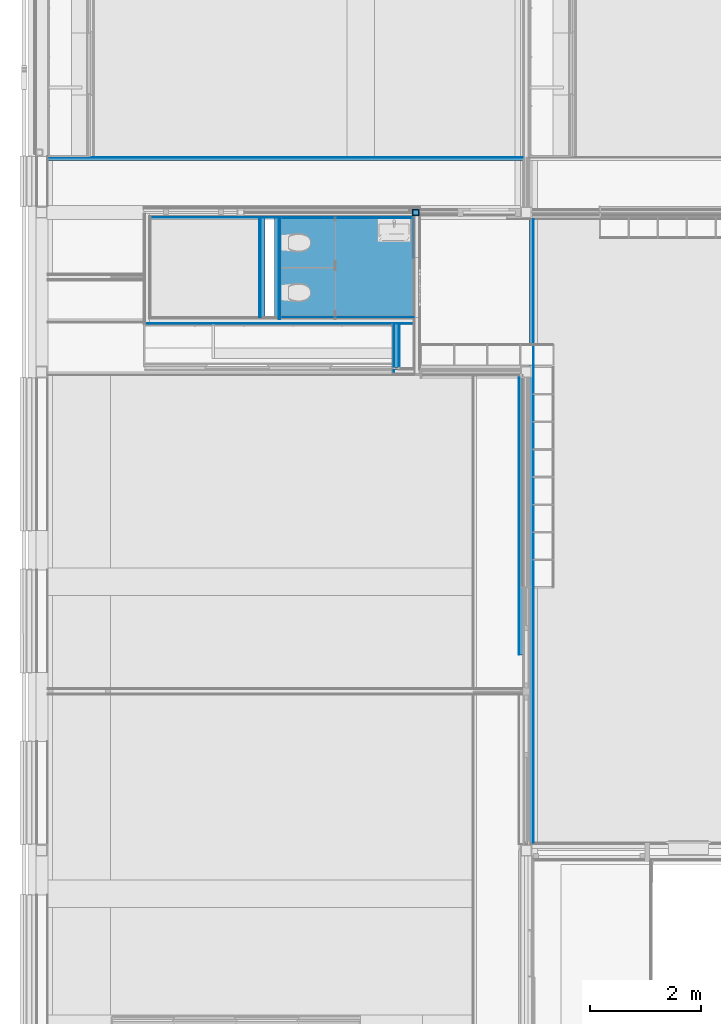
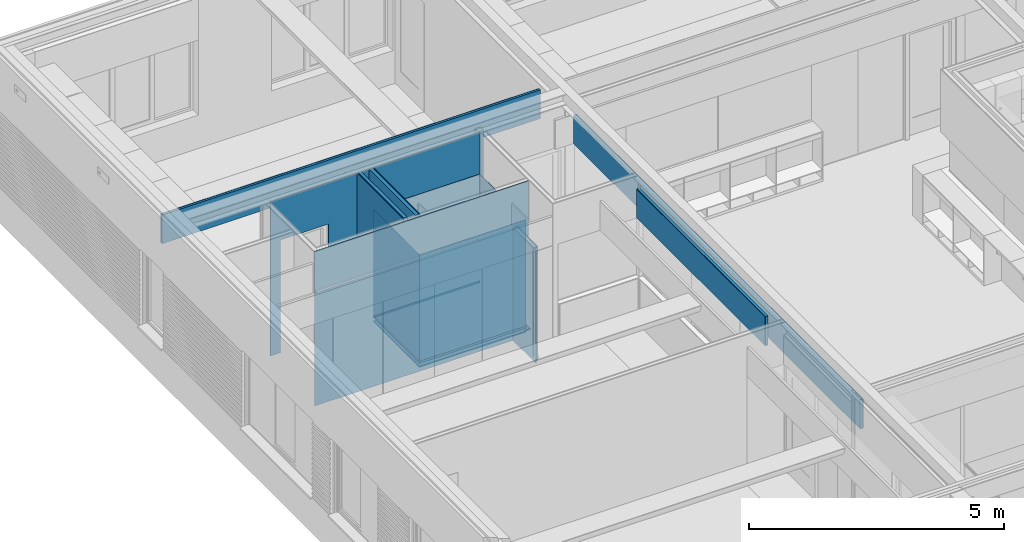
# One storey, part 78 of 137: 28 building element parts, 1 opening, 14 elements without a shape of their own.
"""IFC2X3 building model written with IfcOpenShell, lengths in millimetres."""

from ifc_helpers import new_model, entity, si_unit, converted_unit, derived_unit, money_unit, direction, frame, origin_with_axes, place, context, subcontext, project, spatial, faceted_brep, material, type_object, element, aggregate, save


model = new_model("IFC2X3")

# Units and contexts
model_context = context("Model", 3, precision=0.01, world=origin_with_axes(), true_north=direction((0.0, 1.0)))
body_context = subcontext(model_context, "Body", "Model", "MODEL_VIEW")
ifc_project = project(units=[si_unit("LENGTHUNIT", "METRE", prefix="MILLI"), si_unit("AREAUNIT", "SQUARE_METRE"), si_unit("VOLUMEUNIT", "CUBIC_METRE"), converted_unit("PLANEANGLEUNIT", "DEGREE", entity("IfcPlaneAngleMeasure", 0.0174532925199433), si_unit("PLANEANGLEUNIT", "RADIAN"), dimensions=[0, 0, 0, 0, 0, 0, 0]), money_unit("EUR"), converted_unit("TIMEUNIT", "Year", entity("IfcTimeMeasure", 31556926.0), si_unit("TIMEUNIT", "SECOND"), dimensions=[0, 0, 1, 0, 0, 0, 0]), si_unit("MASSUNIT", "GRAM", prefix="KILO"), si_unit("THERMODYNAMICTEMPERATUREUNIT", "DEGREE_CELSIUS"), si_unit("LUMINOUSINTENSITYUNIT", "LUMEN"), si_unit("ENERGYUNIT", "JOULE", prefix="MEGA"), derived_unit("THERMALCONDUCTANCEUNIT", [(si_unit("POWERUNIT", "WATT"), 1), (si_unit("LENGTHUNIT", "METRE"), -1), (si_unit("THERMODYNAMICTEMPERATUREUNIT", "KELVIN"), -1)]), derived_unit("SPECIFICHEATCAPACITYUNIT", [(si_unit("ENERGYUNIT", "JOULE"), 1), (si_unit("MASSUNIT", "GRAM", prefix="KILO"), -1), (si_unit("THERMODYNAMICTEMPERATUREUNIT", "KELVIN"), -1)]), derived_unit("MASSDENSITYUNIT", [(si_unit("MASSUNIT", "GRAM", prefix="KILO"), 1), (si_unit("VOLUMEUNIT", "CUBIC_METRE"), -1)])], contexts=[model_context])

# Site, building, storey
site_placement = place(None, origin_with_axes())
site = spatial("IfcSite", under=ifc_project, at=site_placement, Name="Site", CompositionType="ELEMENT")
building_placement = place(site_placement, origin_with_axes())
building = spatial("IfcBuilding", under=site, at=building_placement, Name="Naam gebouw", CompositionType="ELEMENT")
storey_placement = place(building_placement, frame((0.0, 0.0, 3960.0), z_axis=(0.0, 0.0, 1.0), x_axis=(1.0, 0.0, 0.0)))
storey = spatial("IfcBuildingStorey", under=building, at=storey_placement, Name="1e verdieping", CompositionType="ELEMENT", Elevation=3960.0)

# Proxy, building element parts
building_element_proxy_type_1 = type_object("IfcBuildingElementProxyType", Name="22 Metal stud 100 voorzetwand 100", PredefinedType="NOTDEFINED")
proxy_1_placement = place(storey_placement, frame((4030.00002148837, 22324.97621406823, -100.0000000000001), z_axis=(0.0, 0.0, 1.0), x_axis=(0.0, -1.0, 0.0)))
proxy_1 = element("IfcBuildingElementProxy", 1, at=proxy_1_placement, inside=storey, type_object=building_element_proxy_type_1, Name="_Wand-x")
ifc_material_1 = material(Name="ALG - LICHTE SCHEIDINGSWAND")
building_element_part_1_placement = place(proxy_1_placement, origin_with_axes())
building_element_part_1 = element("IfcBuildingElementPart", 2, at=building_element_part_1_placement, material=ifc_material_1, Name="ALG - LICHTE SCHEIDINGSWAND", context=body_context, shape_type="Brep", body=[
    faceted_brep([(1894.999999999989, 24.99999999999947, 0.0), (94.99999999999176, 25.00000000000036, 0.0), (94.99999999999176, 99.99999999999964, 0.0), (1894.999999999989, 99.99999999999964, 0.0), (1894.999999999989, 25.00000000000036, 3700.0), (94.99999999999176, 25.00000000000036, 3700.0), (94.99999999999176, 100.0000000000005, 3700.0), (1894.999999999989, 99.99999999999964, 3700.0)], [[[0, 1, 2, 3]], [[4, 5, 1, 0]], [[2, 1, 5, 6]], [[3, 2, 6, 7]], [[3, 7, 4, 0]], [[7, 6, 5, 4]]]),
])
ifc_material_2 = material(Name="Gipsplaat")
building_element_part_2_placement = place(proxy_1_placement, origin_with_axes())
building_element_part_2 = element("IfcBuildingElementPart", 3, at=building_element_part_2_placement, material=ifc_material_2, Name="Gipsplaat", context=body_context, shape_type="Brep", body=[
    faceted_brep([(1894.999999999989, 12.49999999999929, 0.0), (94.99999999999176, 12.50000000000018, 0.0), (94.99999999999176, 25.00000000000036, 0.0), (1894.999999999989, 24.99999999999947, 0.0), (1894.999999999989, 12.50000000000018, 3700.0), (94.99999999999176, 12.50000000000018, 3700.0), (94.99999999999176, 25.00000000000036, 3700.0), (1894.999999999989, 25.00000000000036, 3700.0)], [[[0, 1, 2, 3]], [[4, 5, 1, 0]], [[2, 1, 5, 6]], [[3, 2, 6, 7]], [[3, 7, 4, 0]], [[7, 6, 5, 4]]]),
])
building_element_part_3_placement = place(proxy_1_placement, origin_with_axes())
building_element_part_3 = element("IfcBuildingElementPart", 4, at=building_element_part_3_placement, material=ifc_material_2, Name="Gipsplaat", context=body_context, shape_type="Brep", body=[
    faceted_brep([(1894.999999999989, 0.0, 0.0), (94.99999999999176, 0.0, 0.0), (94.99999999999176, 12.50000000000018, 0.0), (1894.999999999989, 12.49999999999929, 0.0), (1894.999999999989, 0.0, 3700.0), (94.99999999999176, 0.0, 3700.0), (94.99999999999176, 12.50000000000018, 3700.0), (1894.999999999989, 12.50000000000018, 3700.0)], [[[0, 1, 2, 3]], [[4, 5, 1, 0]], [[2, 1, 5, 6]], [[3, 2, 6, 7]], [[3, 7, 4, 0]], [[7, 6, 5, 4]]]),
])
aggregate(proxy_1, [building_element_part_1, building_element_part_2, building_element_part_3])

# Proxy, building element part
building_element_proxy_type_2 = type_object("IfcBuildingElementProxyType", Name="22 Metal stud 125 gips 125", PredefinedType="NOTDEFINED")
proxy_2_placement = place(storey_placement, frame((1944.000000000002, 20367.47621406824, -100.0000000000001), z_axis=(0.0, 0.0, 1.0), x_axis=(1.0, 0.0, 0.0)))
proxy_2 = element("IfcBuildingElementProxy", 5, at=proxy_2_placement, inside=storey, type_object=building_element_proxy_type_2, Name="_Wand-x")
building_element_part_4_placement = place(proxy_2_placement, origin_with_axes())
building_element_part_4 = element("IfcBuildingElementPart", 6, at=building_element_part_4_placement, material=ifc_material_2, Name="Gipsplaat", context=body_context, shape_type="Brep", body=[
    faceted_brep([(4870.999999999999, -50.00000000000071, 0.0), (24.99999999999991, -50.00000000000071, 0.0), (24.99999999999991, -37.50000000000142, 0.0), (4870.999999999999, -37.50000000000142, 0.0), (4870.999999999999, -50.00000000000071, 3700.0), (24.99999999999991, -50.00000000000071, 3700.0), (24.99999999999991, -37.50000000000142, 3700.0), (4870.999999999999, -37.49999999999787, 3700.0)], [[[0, 1, 2, 3]], [[4, 5, 1, 0]], [[2, 1, 5, 6]], [[3, 2, 6, 7]], [[3, 7, 4, 0]], [[7, 6, 5, 4]]]),
])
aggregate(proxy_2, [building_element_part_4])

# Proxy, building element parts
proxy_3_placement = place(storey_placement, frame((4405.000000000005, 22324.97621406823, -100.0000000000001), z_axis=(0.0, 0.0, 1.0), x_axis=(0.0, -1.0, 0.0)))
proxy_3 = element("IfcBuildingElementProxy", 7, at=proxy_3_placement, inside=storey, type_object=building_element_proxy_type_1, Name="_Wand-x")
building_element_part_5_placement = place(proxy_3_placement, origin_with_axes())
building_element_part_5 = element("IfcBuildingElementPart", 8, at=building_element_part_5_placement, material=ifc_material_2, Name="Gipsplaat", context=body_context, shape_type="Brep", body=[
    faceted_brep([(1925.000000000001, -12.50000000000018, 3700.0), (1925.000000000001, 0.0, 3700.0), (94.99999999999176, 0.0, 3700.0), (94.99999999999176, -12.50000000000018, 3700.0), (1925.000000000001, -12.50000000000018, 0.0), (1925.000000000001, 0.0, 0.0), (94.99999999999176, 0.0, 0.0), (94.99999999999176, -12.50000000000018, 0.0)], [[[0, 1, 2, 3]], [[0, 4, 5, 1]], [[1, 5, 6, 2]], [[3, 2, 6, 7]], [[4, 0, 3, 7]], [[5, 4, 7, 6]]]),
])
building_element_part_6_placement = place(proxy_3_placement, origin_with_axes())
building_element_part_6 = element("IfcBuildingElementPart", 9, at=building_element_part_6_placement, material=ifc_material_2, Name="Gipsplaat", context=body_context, shape_type="Brep", body=[
    faceted_brep([(1925.000000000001, -25.00000000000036, 3700.0), (1925.000000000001, -12.50000000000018, 3700.0), (94.99999999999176, -12.50000000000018, 3700.0), (94.99999999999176, -24.99999999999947, 3700.0), (1925.000000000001, -25.00000000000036, 0.0), (1925.000000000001, -12.50000000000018, 0.0), (94.99999999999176, -12.50000000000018, 0.0), (94.99999999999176, -25.00000000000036, 0.0)], [[[0, 1, 2, 3]], [[0, 4, 5, 1]], [[1, 5, 6, 2]], [[3, 2, 6, 7]], [[4, 0, 3, 7]], [[5, 4, 7, 6]]]),
])
building_element_part_7_placement = place(proxy_3_placement, origin_with_axes())
building_element_part_7 = element("IfcBuildingElementPart", 10, at=building_element_part_7_placement, material=ifc_material_1, Name="ALG - LICHTE SCHEIDINGSWAND", context=body_context, shape_type="Brep", body=[
    faceted_brep([(1925.000000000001, -99.99999999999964, 3700.0), (1925.000000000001, -25.00000000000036, 3700.0), (94.99999999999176, -24.99999999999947, 3700.0), (94.99999999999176, -99.99999999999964, 3700.0), (1925.000000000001, -100.0000000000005, 0.0), (1925.000000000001, -25.00000000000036, 0.0), (94.99999999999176, -25.00000000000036, 0.0), (94.99999999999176, -99.99999999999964, 0.0)], [[[0, 1, 2, 3]], [[0, 4, 5, 1]], [[1, 5, 6, 2]], [[3, 2, 6, 7]], [[4, 0, 3, 7]], [[5, 4, 7, 6]]]),
])
aggregate(proxy_3, [building_element_part_5, building_element_part_6, building_element_part_7])

building_element_proxy_type_3 = type_object("IfcBuildingElementProxyType", Name="22 Metal stud 72.5 plafond 73", PredefinedType="NOTDEFINED")
proxy_4_placement = place(storey_placement, frame((8985.000000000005, 22199.97621406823, 2600.0), z_axis=(0.0, 0.0, 1.0), x_axis=(2.124828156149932e-07, -0.9999999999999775, 0.0)))
proxy_4 = element("IfcBuildingElementProxy", 11, at=proxy_4_placement, inside=storey, type_object=building_element_proxy_type_3, Name="_Wand-x")
building_element_part_8_placement = place(proxy_4_placement, origin_with_axes())
building_element_part_8 = element("IfcBuildingElementPart", 12, at=building_element_part_8_placement, material=ifc_material_2, Name="Gipsplaat", context=body_context, shape_type="Brep", body=[
    faceted_brep([(2687.476402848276, -0.000571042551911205, 0.0), (2687.476402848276, -0.000571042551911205, 11.99999999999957), (0.0, 0.0, 11.99999999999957), (0.0, 0.0, 700.0000000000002), (11254.97610351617, 0.0, 700.0000000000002), (11254.97610351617, 0.0, 0.0), (2687.476400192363, -12.49999999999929, 0.0), (2687.476400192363, -12.49999999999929, 11.99999999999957), (-2.656033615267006e-06, -12.49999999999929, 11.99999999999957), (-2.656033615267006e-06, -12.49999999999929, 700.0000000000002), (11254.97610351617, -12.50000000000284, 700.0000000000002), (11254.97610351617, -12.50000000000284, 0.0)], [[[0, 1, 2, 3, 4, 5]], [[1, 0, 6, 7]], [[8, 2, 1, 7]], [[2, 8, 9, 3]], [[9, 10, 4, 3]], [[4, 10, 11, 5]], [[6, 0, 5, 11]], [[7, 6, 11, 10, 9, 8]]]),
])
building_element_part_9_placement = place(proxy_4_placement, origin_with_axes())
building_element_part_9 = element("IfcBuildingElementPart", 13, at=building_element_part_9_placement, material=ifc_material_1, Name="ALG - LICHTE SCHEIDINGSWAND", context=body_context, shape_type="Brep", body=[
    faceted_brep([(2687.476400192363, -12.49999999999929, 0.0), (2687.476400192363, -12.49999999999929, 11.99999999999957), (-2.656033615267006e-06, -12.49999999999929, 11.99999999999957), (-2.656033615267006e-06, -12.49999999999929, 700.0000000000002), (11254.97610351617, -12.50000000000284, 700.0000000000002), (11254.97610351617, -12.50000000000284, 0.0), (2687.476387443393, -72.49999999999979, 0.0), (2687.476387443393, -72.49999999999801, 11.99999999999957), (-1.540500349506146e-05, -72.49999999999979, 11.99999999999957), (-1.540500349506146e-05, -72.49999999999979, 700.0000000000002), (11254.97610351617, -72.50000000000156, 700.0000000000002), (11254.97610351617, -72.50000000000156, 0.0)], [[[0, 1, 2, 3, 4, 5]], [[1, 0, 6, 7]], [[8, 2, 1, 7]], [[2, 8, 9, 3]], [[9, 10, 4, 3]], [[4, 10, 11, 5]], [[6, 0, 5, 11]], [[7, 6, 11, 10, 9, 8]]]),
])
aggregate(proxy_4, [building_element_part_8, building_element_part_9])

# Proxy, opening, building element part
building_element_proxy_type_4 = type_object("IfcBuildingElementProxyType", Name="22 Metal stud 190 190", PredefinedType="NOTDEFINED")
proxy_5_placement = place(storey_placement, frame((1944.000000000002, 22324.97621406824, -100.0000000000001), z_axis=(0.0, 0.0, 1.0), x_axis=(1.0, 0.0, 0.0)))
proxy_5 = element("IfcBuildingElementProxy", 14, at=proxy_5_placement, inside=storey, type_object=building_element_proxy_type_4, Name="_Wand-x")
opening_placement = place(proxy_5_placement, frame((896.0000214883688, 0.0, 100.0000000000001), z_axis=(0.0, 0.0, 1.0), x_axis=(1.0, 0.0, 0.0)))
element("IfcOpeningElement", 15, at=opening_placement, cuts=proxy_5, Name="_02.07", context=body_context, shape_type="Brep", body=[
    faceted_brep([(-540.0, -96.00000000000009, 2600.0), (-540.0, -96.00000000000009, -100.0000000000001), (540.0, -96.00000000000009, -100.0000000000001), (540.0, -96.00000000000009, 2600.0), (-540.0, 96.00000000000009, 2600.0), (-540.0, 96.00000000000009, -100.0000000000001), (540.0, 96.00000000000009, -100.0000000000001), (540.0, 96.00000000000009, 2600.0)], [[[0, 1, 2, 3]], [[4, 5, 1, 0]], [[5, 6, 2, 1]], [[6, 7, 3, 2]], [[7, 4, 0, 3]], [[6, 5, 4, 7]]]),
])
building_element_part_10_placement = place(proxy_5_placement, origin_with_axes())
building_element_part_10 = element("IfcBuildingElementPart", 16, at=building_element_part_10_placement, material=ifc_material_2, Name="Gipsplaat", context=body_context, shape_type="Brep", body=[
    faceted_brep([(356.0000214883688, -82.49999999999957, 2700.0), (356.0000214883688, -82.49999999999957, 0.0), (125.0, -82.49999999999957, 0.0), (125.0, -82.49999999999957, 3700.0), (4870.999999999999, -82.49999999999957, 3700.0), (4870.999999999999, -82.49999999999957, 0.0), (1436.000021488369, -82.49999999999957, 0.0), (1436.000021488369, -82.49999999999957, 2700.0), (356.0000214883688, -94.99999999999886, 2700.0), (356.0000214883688, -94.99999999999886, 0.0), (125.0, -94.99999999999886, 0.0), (125.0, -94.99999999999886, 3700.0), (4870.999999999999, -94.99999999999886, 3700.0), (4870.999999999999, -94.99999999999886, 0.0), (1436.000021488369, -94.99999999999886, 0.0), (1436.000021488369, -94.99999999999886, 2700.0)], [[[0, 1, 2, 3, 4, 5, 6, 7]], [[1, 0, 8, 9]], [[1, 9, 10, 2]], [[10, 11, 3, 2]], [[3, 11, 12, 4]], [[4, 12, 13, 5]], [[14, 6, 5, 13]], [[7, 6, 14, 15]], [[0, 7, 15, 8]], [[15, 14, 13, 12, 11, 10, 9, 8]]]),
])
aggregate(proxy_5, [building_element_part_10])

# Proxy, building element parts
proxy_6_placement = place(storey_placement, frame((8715.000000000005, 14339.9998112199, 2600.0), z_axis=(0.0, 0.0, 1.0), x_axis=(0.0, 1.0, 0.0)))
proxy_6 = element("IfcBuildingElementProxy", 17, at=proxy_6_placement, inside=storey, type_object=building_element_proxy_type_3, Name="_Wand-x")
building_element_part_11_placement = place(proxy_6_placement, origin_with_axes())
building_element_part_11 = element("IfcBuildingElementPart", 18, at=building_element_part_11_placement, material=ifc_material_2, Name="Gipsplaat", context=body_context, shape_type="Brep", body=[
    faceted_brep([(0.0, -12.49999999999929, 11.99999999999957), (5047.500000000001, -12.49999999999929, 11.99999999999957), (5047.500000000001, -12.49999999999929, 700.0000000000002), (0.0, -12.49999999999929, 700.0000000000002), (5047.500000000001, 0.0, 11.99999999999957), (0.0, 0.0, 11.99999999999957), (5047.500000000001, 0.0, 700.0000000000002), (0.0, 0.0, 700.0000000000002)], [[[0, 1, 2, 3]], [[4, 1, 0, 5]], [[1, 4, 6, 2]], [[3, 2, 6, 7]], [[5, 0, 3, 7]], [[4, 5, 7, 6]]]),
])
building_element_part_12_placement = place(proxy_6_placement, origin_with_axes())
building_element_part_12 = element("IfcBuildingElementPart", 19, at=building_element_part_12_placement, material=ifc_material_1, Name="ALG - LICHTE SCHEIDINGSWAND", context=body_context, shape_type="Brep", body=[
    faceted_brep([(5047.500000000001, -72.49999999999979, 700.0000000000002), (5047.500000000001, -12.49999999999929, 700.0000000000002), (0.0, -12.49999999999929, 700.0000000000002), (0.0, -72.49999999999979, 700.0000000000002), (5047.500000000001, -72.49999999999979, 0.0), (5047.500000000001, -12.49999999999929, 0.0), (0.0, -12.49999999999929, 0.0), (0.0, -72.49999999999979, 0.0)], [[[0, 1, 2, 3]], [[0, 4, 5, 1]], [[1, 5, 6, 2]], [[3, 2, 6, 7]], [[4, 0, 3, 7]], [[5, 4, 7, 6]]]),
])
aggregate(proxy_6, [building_element_part_11, building_element_part_12])

building_element_proxy_type_5 = type_object("IfcBuildingElementProxyType", Name="22 Metal stud 62.5 plafond 63", PredefinedType="NOTDEFINED")
proxy_7_placement = place(storey_placement, frame((214.0000000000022, 23324.99984707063, 2600.0), z_axis=(0.0, 0.0, 1.0), x_axis=(1.0, 0.0, 0.0)))
proxy_7 = element("IfcBuildingElementProxy", 20, at=proxy_7_placement, inside=storey, type_object=building_element_proxy_type_5, Name="_Wand-x")
building_element_part_13_placement = place(proxy_7_placement, origin_with_axes())
building_element_part_13 = element("IfcBuildingElementPart", 21, at=building_element_part_13_placement, material=ifc_material_2, Name="Gipsplaat", context=body_context, shape_type="Brep", body=[
    faceted_brep([(8573.500000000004, -12.49999999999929, 11.99999999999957), (8573.500000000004, 0.0, 11.99999999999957), (8573.500000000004, 0.0, 700.0000000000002), (8573.500000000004, -12.49999999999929, 700.0000000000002), (0.0, 0.0, 11.99999999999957), (0.0, -12.49999999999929, 11.99999999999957), (0.0, 0.0, 700.0000000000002), (0.0, -12.49999999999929, 700.0000000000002)], [[[0, 1, 2, 3]], [[4, 1, 0, 5]], [[1, 4, 6, 2]], [[7, 3, 2, 6]], [[5, 0, 3, 7]], [[4, 5, 7, 6]]]),
])
building_element_part_14_placement = place(proxy_7_placement, origin_with_axes())
building_element_part_14 = element("IfcBuildingElementPart", 22, at=building_element_part_14_placement, material=ifc_material_1, Name="ALG - LICHTE SCHEIDINGSWAND", context=body_context, shape_type="Brep", body=[
    faceted_brep([(8573.500000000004, -62.5, 11.99999999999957), (8573.500000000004, -12.49999999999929, 11.99999999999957), (8573.500000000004, -12.49999999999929, 700.0000000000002), (8573.500000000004, -62.5, 700.0000000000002), (0.0, -12.49999999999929, 11.99999999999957), (0.0, -62.5, 11.99999999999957), (0.0, -12.49999999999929, 700.0000000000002), (0.0, -62.5, 700.0000000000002)], [[[0, 1, 2, 3]], [[4, 1, 0, 5]], [[1, 4, 6, 2]], [[7, 3, 2, 6]], [[5, 0, 3, 7]], [[4, 5, 7, 6]]]),
])
aggregate(proxy_7, [building_element_part_13, building_element_part_14])

# Column, building element parts
column_type = type_object("IfcColumnType", Name="120X120X8 120 x 120", PredefinedType="COLUMN")
column_placement = place(storey_placement, frame((6855.0, 22324.97621406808, -100.0000000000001), z_axis=(0.0, 0.0, 1.0), x_axis=(1.0, 0.0, 0.0)))
column = element("IfcColumn", 23, at=column_placement, inside=storey, type_object=column_type, Name="28_Kolom-x", ObjectType="COLUMN")
ifc_material_3 = material(Name="Lucht kolommen")
building_element_part_15_placement = place(column_placement, origin_with_axes())
building_element_part_15 = element("IfcBuildingElementPart", 24, at=building_element_part_15_placement, material=ifc_material_3, Name="Lucht kolommen", context=body_context, shape_type="Brep", body=[
    faceted_brep([(51.9999999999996, -51.9999999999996, 0.0), (51.9999999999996, 51.9999999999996, 0.0), (51.9999999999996, 51.9999999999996, 3699.999999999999), (51.9999999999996, -51.9999999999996, 3699.999999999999), (-51.9999999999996, -51.9999999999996, 0.0), (-51.9999999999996, 51.9999999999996, 0.0), (-51.9999999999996, 51.9999999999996, 3699.999999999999), (-51.9999999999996, -51.9999999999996, 3699.999999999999)], [[[0, 1, 2, 3]], [[0, 4, 5, 1]], [[1, 5, 6, 2]], [[3, 2, 6, 7]], [[4, 0, 3, 7]], [[5, 4, 7, 6]]]),
])
ifc_material_4 = material(Name="Metaal - Staal C")
building_element_part_16_placement = place(column_placement, origin_with_axes())
building_element_part_16 = element("IfcBuildingElementPart", 25, at=building_element_part_16_placement, material=ifc_material_4, Name="Metaal - Staal C", context=body_context, shape_type="Brep", body=[
    faceted_brep([(-59.99999999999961, 59.99999999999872, 0.0), (-59.99999999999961, -59.99999999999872, 0.0), (-59.99999999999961, -59.99999999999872, 3699.999999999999), (-59.99999999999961, 59.99999999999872, 3699.999999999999), (59.99999999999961, 59.99999999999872, 0.0), (59.99999999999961, -59.99999999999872, 0.0), (-51.9999999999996, -51.9999999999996, 0.0), (51.9999999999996, -51.9999999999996, 0.0), (51.9999999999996, 51.9999999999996, 0.0), (-51.9999999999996, 51.9999999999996, 0.0), (59.99999999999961, -59.99999999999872, 3699.999999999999), (59.99999999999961, 59.99999999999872, 3699.999999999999), (-51.9999999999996, -51.9999999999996, 3699.999999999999), (-51.9999999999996, 51.9999999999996, 3699.999999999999), (51.9999999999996, 51.9999999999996, 3699.999999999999), (51.9999999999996, -51.9999999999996, 3699.999999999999)], [[[0, 1, 2, 3]], [[0, 4, 5, 1], [6, 7, 8, 9]], [[1, 5, 10, 2]], [[3, 2, 10, 11], [12, 13, 14, 15]], [[4, 0, 3, 11]], [[5, 4, 11, 10]], [[7, 6, 12, 15]], [[8, 7, 15, 14]], [[9, 8, 14, 13]], [[6, 9, 13, 12]]]),
])
aggregate(column, [building_element_part_15, building_element_part_16])

# Slab, building element part
slab_type = type_object("IfcSlabType", Name="43 Zwevende dekvloer 100", PredefinedType="NOTDEFINED")
slab_placement = place(storey_placement, frame((4404.99999999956, 20429.97621406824, 0.0), z_axis=(0.0, 0.0, 1.0), x_axis=(1.0, 0.0, 0.0)))
slab = element("IfcSlab", 26, at=slab_placement, inside=storey, type_object=slab_type, Name="_Vloer-x", PredefinedType="NOTDEFINED")
ifc_material_5 = material(Name="Isolatie - XPS zwevende dekvloer")
building_element_part_17_placement = place(slab_placement, origin_with_axes())
building_element_part_17 = element("IfcBuildingElementPart", 27, at=building_element_part_17_placement, material=ifc_material_5, Name="Isolatie - XPS zwevende dekvloer", context=body_context, shape_type="Brep", body=[
    faceted_brep([(0.0, 0.0, -100.0000000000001), (2410.000000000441, 0.0, -100.0000000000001), (2410.000000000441, 0.0, -69.99999999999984), (0.0, 0.0, -69.99999999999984), (0.0, 1799.999999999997, -100.0000000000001), (2410.000000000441, 1799.999999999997, -100.0000000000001), (2410.000000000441, 1112.499999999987, -100.0000000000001), (2535.000000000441, 1112.499999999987, -100.0000000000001), (2535.000000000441, 32.4999999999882, -100.0000000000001), (2410.000000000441, 32.4999999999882, -100.0000000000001), (2410.000000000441, 32.4999999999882, -69.99999999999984), (2535.000000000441, 32.4999999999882, -69.99999999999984), (2535.000000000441, 1112.499999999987, -69.99999999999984), (2410.000000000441, 1112.499999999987, -69.99999999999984), (2410.000000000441, 1799.999999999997, -69.99999999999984), (0.0, 1799.999999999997, -69.99999999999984)], [[[0, 1, 2, 3]], [[0, 4, 5, 6, 7, 8, 9, 1]], [[1, 9, 10, 2]], [[3, 2, 10, 11, 12, 13, 14, 15]], [[4, 0, 3, 15]], [[5, 4, 15, 14]], [[6, 5, 14, 13]], [[7, 6, 13, 12]], [[8, 7, 12, 11]], [[9, 8, 11, 10]]]),
])
aggregate(slab, [building_element_part_17])

# Proxy, building element part
building_element_proxy_type_6 = type_object("IfcBuildingElementProxyType", Name="42 Tegelwerk 2600+ 12 x 2600", PredefinedType="NOTDEFINED")
proxy_8_placement = place(storey_placement, frame((6795.000000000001, 21509.97621853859, 0.0), z_axis=(0.0, 0.0, 1.0), x_axis=(0.0, 1.0, 0.0)))
proxy_8 = element("IfcBuildingElementProxy", 28, at=proxy_8_placement, inside=storey, type_object=building_element_proxy_type_6, Name="_Wand-x")
ifc_material_6 = material(Name="21 STO lijmlaag")
building_element_part_18_placement = place(proxy_8_placement, origin_with_axes())
building_element_part_18 = element("IfcBuildingElementPart", 29, at=building_element_part_18_placement, material=ifc_material_6, Name="21 STO lijmlaag", context=body_context, shape_type="Brep", body=[
    faceted_brep([(720.0000029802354, -19.99999552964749, 50.00000596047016), (720.0000029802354, -19.99999552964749, 2600.0), (0.0, -19.99999552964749, 2600.0), (0.0, -19.99999552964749, 49.99999999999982), (720.0000029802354, -13.00000447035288, 2600.0), (720.0000029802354, -14.99999850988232, 50.00000596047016), (720.0000029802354, -13.00000447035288, 50.00000596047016), (0.0, -13.00000447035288, 2600.0), (0.0, -13.00000447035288, 49.99999999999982), (0.0, -14.99999850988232, 50.00000596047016)], [[[0, 1, 2, 3]], [[4, 1, 0, 5, 6]], [[1, 4, 7, 2]], [[7, 8, 9, 3, 2]], [[5, 0, 3, 9]], [[6, 5, 9, 8]], [[4, 6, 8, 7]]]),
])
aggregate(proxy_8, [building_element_part_18])

proxy_9_placement = place(storey_placement, frame((6795.000000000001, 22209.97621406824, 0.0), z_axis=(0.0, 0.0, 1.0), x_axis=(-1.0, 0.0, 0.0)))
proxy_9 = element("IfcBuildingElementProxy", 30, at=proxy_9_placement, inside=storey, type_object=building_element_proxy_type_6, Name="_Wand-x")
building_element_part_19_placement = place(proxy_9_placement, origin_with_axes())
building_element_part_19 = element("IfcBuildingElementPart", 31, at=building_element_part_19_placement, material=ifc_material_6, Name="21 STO lijmlaag", context=body_context, shape_type="Brep", body=[
    faceted_brep([(-13.00000447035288, -13.00000447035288, 2600.0), (-13.00000447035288, -19.99999552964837, 2600.0), (2390.000007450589, -19.99999552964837, 2600.0), (2390.000007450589, -13.00000447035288, 2600.0), (-13.00000447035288, -19.99999552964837, 49.99999999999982), (-13.00000447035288, -13.00000447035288, 49.99999999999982), (-13.00000447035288, -14.99999850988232, 49.99999999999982), (2390.000007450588, -19.99999552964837, 50.00000596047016), (2390.000007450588, -13.00000447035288, 50.00000596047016), (2390.000007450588, -14.99999850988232, 50.00000596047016)], [[[0, 1, 2, 3]], [[4, 1, 0, 5, 6]], [[1, 4, 7, 2]], [[8, 3, 2, 7, 9]], [[5, 0, 3, 8]], [[6, 5, 8, 9]], [[4, 6, 9, 7]]]),
])

proxy_10_placement = place(storey_placement, frame((4425.0, 22209.97621406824, 0.0), z_axis=(0.0, 0.0, 1.0), x_axis=(0.0, -1.0, 0.0)))
proxy_10 = element("IfcBuildingElementProxy", 32, at=proxy_10_placement, inside=storey, type_object=building_element_proxy_type_6, Name="_Wand-x")
building_element_part_20_placement = place(proxy_10_placement, origin_with_axes())
building_element_part_20 = element("IfcBuildingElementPart", 33, at=building_element_part_20_placement, material=ifc_material_6, Name="21 STO lijmlaag", context=body_context, shape_type="Brep", body=[
    faceted_brep([(-13.00000447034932, -13.00000447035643, 49.99999999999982), (-13.00000447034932, -13.00000447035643, 2600.0), (1780.000007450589, -13.00000446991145, 2600.0), (1780.000007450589, -13.00000446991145, 50.00000596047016), (-13.00000447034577, -19.99999552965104, 2600.0), (-13.00000447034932, -14.99999850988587, 49.99999999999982), (-13.00000447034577, -19.99999552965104, 49.99999999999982), (1780.000007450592, -19.99999552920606, 2600.0), (1780.000007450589, -14.99999850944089, 50.00000596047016), (1780.000007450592, -19.99999552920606, 50.00000596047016)], [[[0, 1, 2, 3]], [[4, 1, 0, 5, 6]], [[1, 4, 7, 2]], [[8, 3, 2, 7, 9]], [[5, 0, 3, 8]], [[6, 5, 8, 9]], [[4, 6, 9, 7]]]),
])

# Building element part
ifc_material_7 = material(Name="48 vloeivloer Bolidt")
building_element_part_21_placement = place(proxy_9_placement, origin_with_axes())
building_element_part_21 = element("IfcBuildingElementPart", 34, at=building_element_part_21_placement, material=ifc_material_7, Name="48 vloeivloer Bolidt", context=body_context, shape_type="Brep", body=[
    faceted_brep([(-14.99999850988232, -14.99999850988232, 50.00000596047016), (-14.99999850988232, -19.99998360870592, 50.00000596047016), (2390.000007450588, -19.99998360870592, 50.00000596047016), (2390.000007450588, -14.99999850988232, 50.00000596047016), (-14.99999850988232, -19.99998360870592, 0.0), (-14.99999850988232, -14.99999850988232, 0.0), (2390.000007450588, -19.99998360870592, 0.0), (2390.000007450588, -14.99999850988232, 0.0)], [[[0, 1, 2, 3]], [[4, 1, 0, 5]], [[1, 4, 6, 2]], [[3, 2, 6, 7]], [[5, 0, 3, 7]], [[4, 5, 7, 6]]]),
])

aggregate(proxy_9, [building_element_part_19, building_element_part_21])

# Proxy, building element part
proxy_11_placement = place(storey_placement, frame((4424.999999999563, 20449.97621406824, 0.0), z_axis=(0.0, 0.0, 1.0), x_axis=(1.0, 0.0, 0.0)))
proxy_11 = element("IfcBuildingElementProxy", 35, at=proxy_11_placement, inside=storey, type_object=building_element_proxy_type_6, Name="_Wand-x")
building_element_part_22_placement = place(proxy_11_placement, origin_with_axes())
building_element_part_22 = element("IfcBuildingElementPart", 36, at=building_element_part_22_placement, material=ifc_material_6, Name="21 STO lijmlaag", context=body_context, shape_type="Brep", body=[
    faceted_brep([(-13.00000446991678, -13.00000447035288, 49.99999999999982), (-13.00000446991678, -13.00000447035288, 2600.0), (2390.000000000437, -13.00000447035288, 2600.0), (2390.000000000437, -13.00000447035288, 49.99999999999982), (-13.00000446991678, -19.99999552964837, 2600.0), (-13.00000446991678, -14.99999850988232, 49.99999999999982), (-13.00000446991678, -19.99999552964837, 49.99999999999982), (2390.000000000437, -19.99999552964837, 2600.0), (2390.000000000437, -19.99999552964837, 49.99999999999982), (2390.000000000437, -14.99999850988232, 50.00000596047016)], [[[0, 1, 2, 3]], [[4, 1, 0, 5, 6]], [[1, 4, 7, 2]], [[8, 9, 3, 2, 7]], [[5, 0, 3, 9]], [[6, 5, 9, 8]], [[4, 6, 8, 7]]]),
])

# Building element part
building_element_part_23_placement = place(proxy_10_placement, origin_with_axes())
building_element_part_23 = element("IfcBuildingElementPart", 37, at=building_element_part_23_placement, material=ifc_material_7, Name="48 vloeivloer Bolidt", context=body_context, shape_type="Brep", body=[
    faceted_brep([(-14.99999850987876, -14.99999850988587, 0.0), (-14.99999850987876, -14.99999850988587, 50.00000596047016), (1780.000007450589, -14.99999850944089, 50.00000596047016), (1780.000007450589, -14.99999850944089, 0.0), (-14.99999850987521, -19.99998360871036, 50.00000596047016), (-14.99999850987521, -19.99998360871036, 0.0), (1780.000007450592, -19.99998360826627, 50.00000596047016), (1780.000007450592, -19.99998360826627, 0.0)], [[[0, 1, 2, 3]], [[4, 1, 0, 5]], [[1, 4, 6, 2]], [[7, 3, 2, 6]], [[5, 0, 3, 7]], [[4, 5, 7, 6]]]),
])

aggregate(proxy_10, [building_element_part_20, building_element_part_23])

building_element_part_24_placement = place(proxy_11_placement, origin_with_axes())
building_element_part_24 = element("IfcBuildingElementPart", 38, at=building_element_part_24_placement, material=ifc_material_7, Name="48 vloeivloer Bolidt", context=body_context, shape_type="Brep", body=[
    faceted_brep([(-14.99999850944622, -14.99999850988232, 0.0), (-14.99999850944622, -14.99999850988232, 50.00000596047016), (2390.000000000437, -14.99999850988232, 50.00000596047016), (2390.000000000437, -14.99999850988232, 0.0), (-14.99999850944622, -19.99998360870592, 50.00000596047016), (-14.99999850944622, -19.99998360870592, 0.0), (2390.000000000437, -19.99998360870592, 50.00000596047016), (2390.000000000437, -19.99998360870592, 0.0)], [[[0, 1, 2, 3]], [[4, 1, 0, 5]], [[1, 4, 6, 2]], [[6, 7, 3, 2]], [[5, 0, 3, 7]], [[4, 5, 7, 6]]]),
])

aggregate(proxy_11, [building_element_part_22, building_element_part_24])

# Proxy, building element parts
building_element_proxy_type_7 = type_object("IfcBuildingElementProxyType", Name="22 Metal stud 125 oregon pine 125", PredefinedType="NOTDEFINED")
proxy_12_placement = place(storey_placement, frame((6444.000000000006, 19387.4998112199, -100.0000000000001), z_axis=(0.0, 0.0, 1.0), x_axis=(0.0, 1.0, 0.0)))
proxy_12 = element("IfcBuildingElementProxy", 39, at=proxy_12_placement, inside=storey, type_object=building_element_proxy_type_7, Name="_Wand-x")
building_element_part_25_placement = place(proxy_12_placement, origin_with_axes())
building_element_part_25 = element("IfcBuildingElementPart", 40, at=building_element_part_25_placement, material=ifc_material_1, Name="ALG - LICHTE SCHEIDINGSWAND", context=body_context, shape_type="Brep", body=[
    faceted_brep([(135.4764028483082, -25.00000000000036, 2700.0), (135.4764028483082, -99.99999999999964, 2700.0), (917.4764028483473, -99.99999999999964, 2700.0), (917.4764028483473, -24.99999999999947, 2700.0), (135.4764028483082, -99.99999999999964, 100.0000000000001), (135.4764028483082, -25.00000000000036, 100.0000000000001), (117.4764028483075, -99.99999999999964, 100.0000000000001), (117.4764028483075, -99.99999999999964, 2700.0), (100.0000000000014, -99.99999999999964, 2700.0), (100.0000000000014, -99.99999999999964, 0.0), (917.4764028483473, -99.99999999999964, 0.0), (917.4764028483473, -25.00000000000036, 0.0), (100.0000000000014, -25.00000000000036, 0.0), (100.0000000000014, -24.99999999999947, 2700.0), (117.4764028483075, -24.99999999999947, 2700.0), (117.4764028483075, -25.00000000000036, 100.0000000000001)], [[[0, 1, 2, 3]], [[4, 1, 0, 5]], [[6, 7, 8, 9, 10, 2, 1, 4]], [[3, 2, 10, 11]], [[5, 0, 3, 11, 12, 13, 14, 15]], [[6, 4, 5, 15]], [[14, 7, 6, 15]], [[7, 14, 13, 8]], [[9, 8, 13, 12]], [[11, 10, 9, 12]]]),
])
building_element_part_26_placement = place(proxy_12_placement, origin_with_axes())
building_element_part_26 = element("IfcBuildingElementPart", 41, at=building_element_part_26_placement, material=ifc_material_2, Name="Gipsplaat", context=body_context, shape_type="Brep", body=[
    faceted_brep([(135.4764028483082, -12.50000000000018, 2700.0), (135.4764028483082, -25.00000000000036, 2700.0), (917.4764028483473, -24.99999999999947, 2700.0), (917.4764028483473, -12.50000000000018, 2700.0), (135.4764028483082, -24.99999999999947, 100.0000000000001), (135.4764028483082, -12.50000000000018, 100.0000000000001), (117.4764028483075, -24.99999999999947, 100.0000000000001), (117.4764028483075, -24.99999999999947, 2700.0), (24.99999999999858, -24.99999999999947, 2700.0), (24.99999999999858, -25.00000000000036, 0.0), (917.4764028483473, -25.00000000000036, 0.0), (917.4764028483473, -12.50000000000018, 0.0), (24.99999999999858, -12.50000000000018, 0.0), (24.99999999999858, -12.50000000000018, 2700.0), (117.4764028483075, -12.50000000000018, 2700.0), (117.4764028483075, -12.50000000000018, 100.0000000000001)], [[[0, 1, 2, 3]], [[4, 1, 0, 5]], [[6, 7, 8, 9, 10, 2, 1, 4]], [[3, 2, 10, 11]], [[5, 0, 3, 11, 12, 13, 14, 15]], [[6, 4, 5, 15]], [[14, 7, 6, 15]], [[7, 14, 13, 8]], [[9, 8, 13, 12]], [[11, 10, 9, 12]]]),
])
building_element_part_27_placement = place(proxy_12_placement, origin_with_axes())
building_element_part_27 = element("IfcBuildingElementPart", 42, at=building_element_part_27_placement, material=ifc_material_2, Name="Gipsplaat", context=body_context, shape_type="Brep", body=[
    faceted_brep([(135.4764028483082, -112.5000000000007, 2700.0), (135.4764028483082, -125.0, 2700.0), (917.4764028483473, -125.0, 2700.0), (917.4764028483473, -112.4999999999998, 2700.0), (135.4764028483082, -125.0, 100.0000000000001), (135.4764028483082, -112.4999999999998, 100.0000000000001), (125.0, -125.0, 100.0000000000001), (125.0, -125.0, 0.0), (917.4764028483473, -125.0, 0.0), (917.4764028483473, -112.4999999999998, 0.0), (125.0, -112.4999999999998, 0.0), (125.0, -112.4999999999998, 100.0000000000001)], [[[0, 1, 2, 3]], [[4, 1, 0, 5]], [[4, 6, 7, 8, 2, 1]], [[3, 2, 8, 9]], [[5, 0, 3, 9, 10, 11]], [[6, 4, 5, 11]], [[6, 11, 10, 7]], [[9, 8, 7, 10]]]),
])
building_element_part_28_placement = place(proxy_12_placement, origin_with_axes())
building_element_part_28 = element("IfcBuildingElementPart", 43, at=building_element_part_28_placement, material=ifc_material_2, Name="Gipsplaat", context=body_context, shape_type="Brep", body=[
    faceted_brep([(135.4764028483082, -99.99999999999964, 2700.0), (135.4764028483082, -112.5000000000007, 2700.0), (917.4764028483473, -112.4999999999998, 2700.0), (917.4764028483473, -99.99999999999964, 2700.0), (135.4764028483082, -112.4999999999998, 100.0000000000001), (135.4764028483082, -99.99999999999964, 100.0000000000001), (117.4764028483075, -112.4999999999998, 100.0000000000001), (117.4764028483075, -112.4999999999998, 2700.0), (112.5000000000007, -112.4999999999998, 2700.0), (112.5000000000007, -112.4999999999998, 0.0), (917.4764028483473, -112.4999999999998, 0.0), (917.4764028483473, -99.99999999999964, 0.0), (112.5000000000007, -99.99999999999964, 0.0), (112.5000000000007, -99.99999999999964, 2700.0), (117.4764028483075, -99.99999999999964, 2700.0), (117.4764028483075, -99.99999999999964, 100.0000000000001)], [[[0, 1, 2, 3]], [[4, 1, 0, 5]], [[6, 7, 8, 9, 10, 2, 1, 4]], [[3, 2, 10, 11]], [[5, 0, 3, 11, 12, 13, 14, 15]], [[6, 4, 5, 15]], [[14, 7, 6, 15]], [[7, 14, 13, 8]], [[9, 8, 13, 12]], [[11, 10, 9, 12]]]),
])
aggregate(proxy_12, [building_element_part_25, building_element_part_26, building_element_part_27, building_element_part_28])

save(model, "model.ifc")
